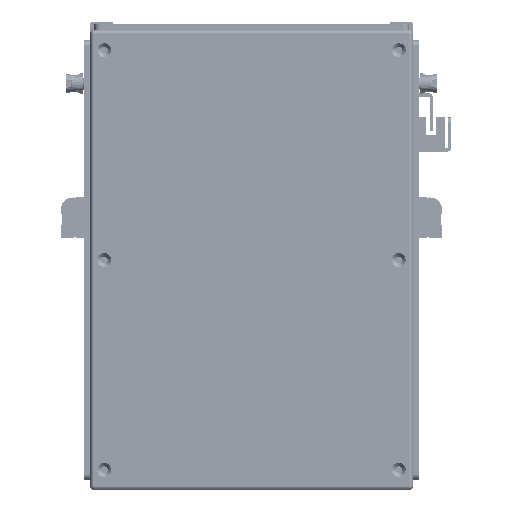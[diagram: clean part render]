
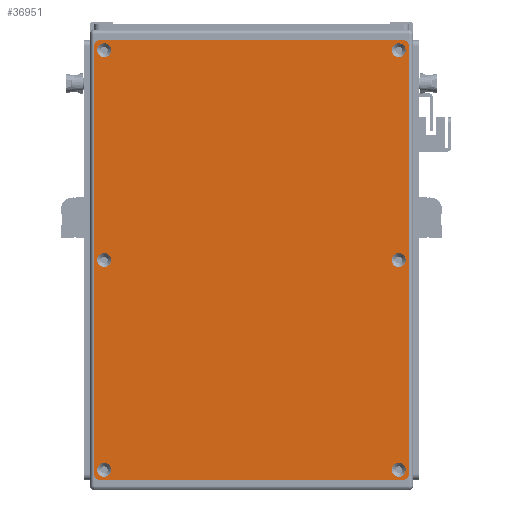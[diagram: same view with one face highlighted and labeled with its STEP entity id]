
A CAD part, front view. The second image highlights one B-rep face of the part: STEP entity #36951.
In plain terms, the highlighted planar face has unit normal (0, -1, 0).
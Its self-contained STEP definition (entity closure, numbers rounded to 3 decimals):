
#2255=FACE_BOUND('',#10180,.T.);
#2256=FACE_BOUND('',#10181,.T.);
#2257=FACE_BOUND('',#10182,.T.);
#2258=FACE_BOUND('',#10183,.T.);
#2259=FACE_BOUND('',#10184,.T.);
#2260=FACE_BOUND('',#10185,.T.);
#3072=PLANE('',#41168);
#7981=FACE_OUTER_BOUND('',#10179,.T.);
#10179=EDGE_LOOP('',(#34229,#34230,#34231,#34232,#34233,#34234,#34235,#34236));
#10180=EDGE_LOOP('',(#34237));
#10181=EDGE_LOOP('',(#34238));
#10182=EDGE_LOOP('',(#34239));
#10183=EDGE_LOOP('',(#34240));
#10184=EDGE_LOOP('',(#34241));
#10185=EDGE_LOOP('',(#34242));
#12864=LINE('',#65061,#15534);
#12865=LINE('',#65065,#15535);
#12866=LINE('',#65069,#15536);
#12867=LINE('',#65072,#15537);
#15534=VECTOR('',#51071,10.);
#15535=VECTOR('',#51074,10.);
#15536=VECTOR('',#51077,10.);
#15537=VECTOR('',#51080,10.);
#17455=CIRCLE('',#41136,3.45);
#17458=CIRCLE('',#41141,3.45);
#17461=CIRCLE('',#41146,3.45);
#17464=CIRCLE('',#41151,3.45);
#17467=CIRCLE('',#41156,3.45);
#17470=CIRCLE('',#41161,3.45);
#17473=CIRCLE('',#41166,3.);
#17475=CIRCLE('',#41169,3.);
#17476=CIRCLE('',#41170,3.);
#17477=CIRCLE('',#41171,3.);
#20530=VERTEX_POINT('',#64991);
#20533=VERTEX_POINT('',#65001);
#20536=VERTEX_POINT('',#65011);
#20539=VERTEX_POINT('',#65021);
#20542=VERTEX_POINT('',#65031);
#20545=VERTEX_POINT('',#65041);
#20548=VERTEX_POINT('',#65051);
#20549=VERTEX_POINT('',#65052);
#20552=VERTEX_POINT('',#65060);
#20553=VERTEX_POINT('',#65062);
#20554=VERTEX_POINT('',#65064);
#20555=VERTEX_POINT('',#65066);
#20556=VERTEX_POINT('',#65068);
#20557=VERTEX_POINT('',#65070);
#25125=EDGE_CURVE('',#20530,#20530,#17455,.T.);
#25130=EDGE_CURVE('',#20533,#20533,#17458,.T.);
#25135=EDGE_CURVE('',#20536,#20536,#17461,.T.);
#25140=EDGE_CURVE('',#20539,#20539,#17464,.T.);
#25145=EDGE_CURVE('',#20542,#20542,#17467,.T.);
#25150=EDGE_CURVE('',#20545,#20545,#17470,.T.);
#25155=EDGE_CURVE('',#20548,#20549,#17473,.T.);
#25159=EDGE_CURVE('',#20548,#20552,#12864,.T.);
#25160=EDGE_CURVE('',#20553,#20552,#17475,.T.);
#25161=EDGE_CURVE('',#20553,#20554,#12865,.T.);
#25162=EDGE_CURVE('',#20555,#20554,#17476,.T.);
#25163=EDGE_CURVE('',#20555,#20556,#12866,.T.);
#25164=EDGE_CURVE('',#20557,#20556,#17477,.T.);
#25165=EDGE_CURVE('',#20557,#20549,#12867,.T.);
#34229=ORIENTED_EDGE('',*,*,#25155,.F.);
#34230=ORIENTED_EDGE('',*,*,#25159,.T.);
#34231=ORIENTED_EDGE('',*,*,#25160,.F.);
#34232=ORIENTED_EDGE('',*,*,#25161,.T.);
#34233=ORIENTED_EDGE('',*,*,#25162,.F.);
#34234=ORIENTED_EDGE('',*,*,#25163,.T.);
#34235=ORIENTED_EDGE('',*,*,#25164,.F.);
#34236=ORIENTED_EDGE('',*,*,#25165,.T.);
#34237=ORIENTED_EDGE('',*,*,#25125,.T.);
#34238=ORIENTED_EDGE('',*,*,#25130,.T.);
#34239=ORIENTED_EDGE('',*,*,#25135,.T.);
#34240=ORIENTED_EDGE('',*,*,#25140,.T.);
#34241=ORIENTED_EDGE('',*,*,#25145,.T.);
#34242=ORIENTED_EDGE('',*,*,#25150,.T.);
#36951=ADVANCED_FACE('',(#7981,#2255,#2256,#2257,#2258,#2259,#2260),#3072,
 .T.);
#41136=AXIS2_PLACEMENT_3D('',#64992,#50991,#50992);
#41141=AXIS2_PLACEMENT_3D('',#65002,#51003,#51004);
#41146=AXIS2_PLACEMENT_3D('',#65012,#51015,#51016);
#41151=AXIS2_PLACEMENT_3D('',#65022,#51027,#51028);
#41156=AXIS2_PLACEMENT_3D('',#65032,#51039,#51040);
#41161=AXIS2_PLACEMENT_3D('',#65042,#51051,#51052);
#41166=AXIS2_PLACEMENT_3D('',#65053,#51063,#51064);
#41168=AXIS2_PLACEMENT_3D('',#65059,#51069,#51070);
#41169=AXIS2_PLACEMENT_3D('',#65063,#51072,#51073);
#41170=AXIS2_PLACEMENT_3D('',#65067,#51075,#51076);
#41171=AXIS2_PLACEMENT_3D('',#65071,#51078,#51079);
#50991=DIRECTION('center_axis',(0.,1.,0.));
#50992=DIRECTION('ref_axis',(1.,0.,0.));
#51003=DIRECTION('center_axis',(0.,1.,0.));
#51004=DIRECTION('ref_axis',(1.,0.,0.));
#51015=DIRECTION('center_axis',(0.,1.,0.));
#51016=DIRECTION('ref_axis',(1.,0.,0.));
#51027=DIRECTION('center_axis',(0.,1.,0.));
#51028=DIRECTION('ref_axis',(1.,0.,0.));
#51039=DIRECTION('center_axis',(0.,1.,0.));
#51040=DIRECTION('ref_axis',(1.,0.,0.));
#51051=DIRECTION('center_axis',(0.,1.,0.));
#51052=DIRECTION('ref_axis',(1.,0.,0.));
#51063=DIRECTION('center_axis',(0.,1.,0.));
#51064=DIRECTION('ref_axis',(-0.707,0.,0.707));
#51069=DIRECTION('center_axis',(0.,-1.,0.));
#51070=DIRECTION('ref_axis',(0.,0.,-1.));
#51071=DIRECTION('',(0.,0.,-1.));
#51072=DIRECTION('center_axis',(0.,1.,0.));
#51073=DIRECTION('ref_axis',(-0.707,0.,-0.707));
#51074=DIRECTION('',(1.,0.,0.));
#51075=DIRECTION('center_axis',(0.,1.,0.));
#51076=DIRECTION('ref_axis',(0.707,0.,-0.707));
#51077=DIRECTION('',(0.,0.,1.));
#51078=DIRECTION('center_axis',(0.,1.,0.));
#51079=DIRECTION('ref_axis',(0.707,0.,0.707));
#51080=DIRECTION('',(-1.,0.,0.));
#64991=CARTESIAN_POINT('',(100.55,-1.5,73.));
#64992=CARTESIAN_POINT('Origin',(104.,-1.5,73.));
#65001=CARTESIAN_POINT('',(-107.45,-1.5,-73.));
#65002=CARTESIAN_POINT('Origin',(-104.,-1.5,-73.));
#65011=CARTESIAN_POINT('',(-3.45,-1.5,73.));
#65012=CARTESIAN_POINT('Origin',(0.,-1.5,73.));
#65021=CARTESIAN_POINT('',(-3.45,-1.5,-73.));
#65022=CARTESIAN_POINT('Origin',(0.,-1.5,-73.));
#65031=CARTESIAN_POINT('',(-107.45,-1.5,73.));
#65032=CARTESIAN_POINT('Origin',(-104.,-1.5,73.));
#65041=CARTESIAN_POINT('',(100.55,-1.5,-73.));
#65042=CARTESIAN_POINT('Origin',(104.,-1.5,-73.));
#65051=CARTESIAN_POINT('',(-109.,-1.5,75.));
#65052=CARTESIAN_POINT('',(-106.,-1.5,78.));
#65053=CARTESIAN_POINT('Origin',(-106.,-1.5,75.));
#65059=CARTESIAN_POINT('Origin',(0.,-1.5,0.));
#65060=CARTESIAN_POINT('',(-109.,-1.5,-75.));
#65061=CARTESIAN_POINT('',(-109.,-1.5,78.));
#65062=CARTESIAN_POINT('',(-106.,-1.5,-78.));
#65063=CARTESIAN_POINT('Origin',(-106.,-1.5,-75.));
#65064=CARTESIAN_POINT('',(106.,-1.5,-78.));
#65065=CARTESIAN_POINT('',(-109.,-1.5,-78.));
#65066=CARTESIAN_POINT('',(109.,-1.5,-75.));
#65067=CARTESIAN_POINT('Origin',(106.,-1.5,-75.));
#65068=CARTESIAN_POINT('',(109.,-1.5,75.));
#65069=CARTESIAN_POINT('',(109.,-1.5,-78.));
#65070=CARTESIAN_POINT('',(106.,-1.5,78.));
#65071=CARTESIAN_POINT('Origin',(106.,-1.5,75.));
#65072=CARTESIAN_POINT('',(109.,-1.5,78.));
